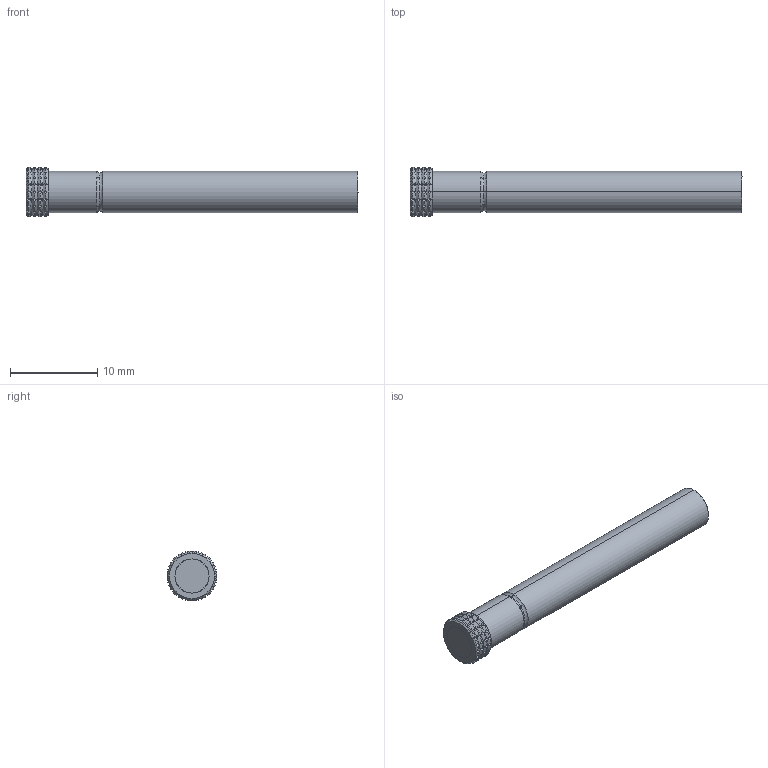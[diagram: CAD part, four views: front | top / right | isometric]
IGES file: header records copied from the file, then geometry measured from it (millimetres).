
Start section: SolidWorks IGES file using analytic representation for surfaces
Global section: file name: O:\PYLON\IGES FILES\P4301\P4301-1F FULL.IGS; native system: SolidWorks 2015; preprocessor: SolidWorks 2015; author: kgolden; date: 171020.121511; units: inch
Bounding box: 38.13 x 5.7 x 5.7 mm (x, y, z)
Surface area: 1115.2 mm2 (no closed solid volume)
Topology: 0 solids, 0 shells, 370 faces, 1997 edges, 1997 vertices
Faces by surface type: revolution 193, bspline 177
